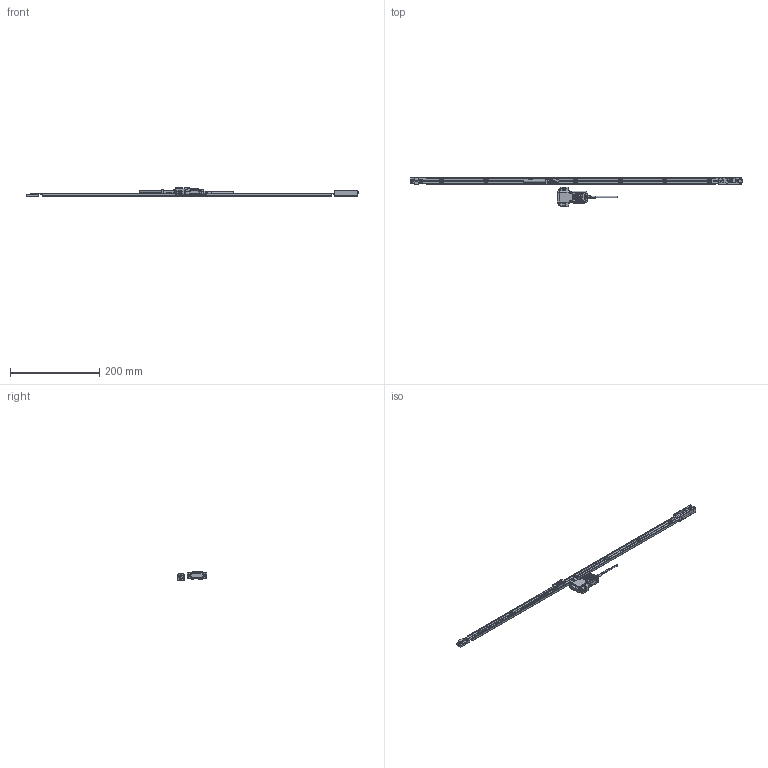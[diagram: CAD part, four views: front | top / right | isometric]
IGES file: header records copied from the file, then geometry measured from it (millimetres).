
Start section: Elysium IGES Interface
Global section: file name: 78H\\Utsu119s\kiyo_cad\data\3D\ST46EZA\HP掲載用_201803\ST46EZA-D\ST46EZA-600D.igs; native system: Creo Elements/Direct Modeling 18.1B  29-Sep-2012; preprocessor: Creo Element/Direct IGES_3D V2.2; author: Unknown; organization: Unknown; date: 20180322.172010; units: millimetre
Bounding box: 742 x 66.91 x 18.68 mm (x, y, z)
Volume: 64388.9 mm3; surface area: 55039.9 mm2
Topology: 3 solids, 5 shells, 2473 faces, 6608 edges, 4307 vertices
Faces by surface type: bspline 2473
